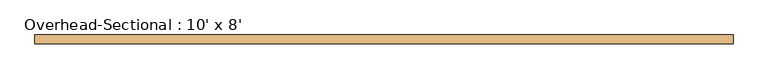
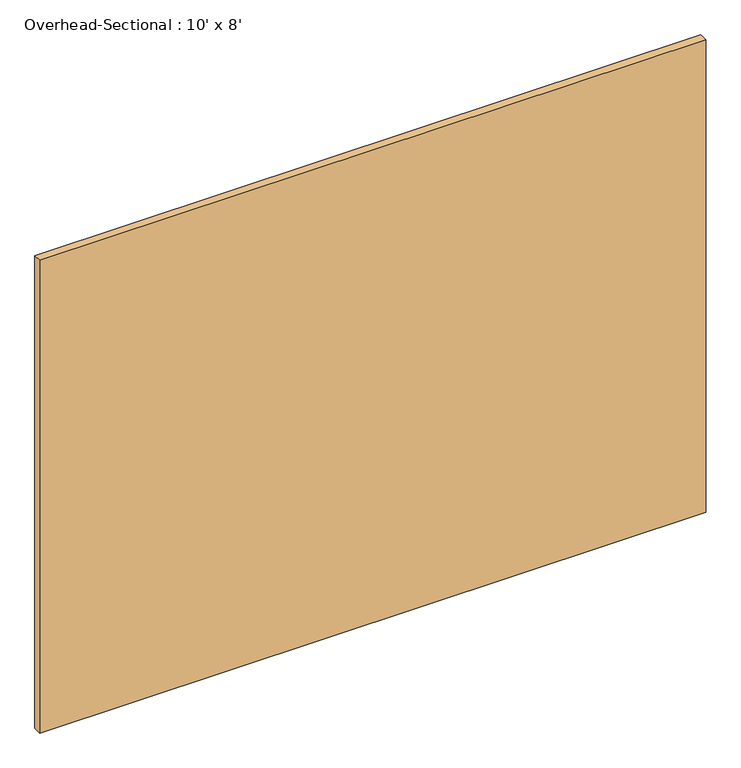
"""IFC4 building model written with IfcOpenShell, lengths in millimetres: door geometry, Overhead-Sectional : 10' x 8'."""

import ifcopenshell
import ifcopenshell.guid

model = None  # the IFC model being written
_history = None  # IfcOwnerHistory: only IFC2X3 demands one
_inside = {}  # id of a spatial element -> (the spatial element, [elements in it])
_under = {}  # id of a project, library or spatial element -> (it, [spatial elements below it])
_declared = {}  # id of a project -> (the project, [libraries it declares])
_typed = {}  # id of a type object -> (the type object, [elements of that type])
_made_of = {}  # id of a material, layer set ... -> (it, [elements and type objects made of it])


def new_model(schema):
    """Start an empty IFC model of exactly this schema.

    Asked for "IFC4X3", IfcOpenShell would pick the latest addendum, in which some entities
    have other attributes; the version numbers below select the first issue.
    IFC2X3 requires an IfcOwnerHistory on every rooted entity: one is made here for all.
    """
    global model, _history
    if schema == "IFC4X3":
        model = ifcopenshell.file(schema_version=(4, 3, 0, 0))
    else:
        model = ifcopenshell.file(schema=schema)
    _inside.clear()
    _under.clear()
    _declared.clear()
    _typed.clear()
    _made_of.clear()
    _history = None
    if model.schema == "IFC2X3":
        org = make("IfcOrganization", Name="unknown")
        user = make(
            "IfcPersonAndOrganization",
            ThePerson=make("IfcPerson", FamilyName="unknown"),
            TheOrganization=org,
        )
        app = make(
            "IfcApplication",
            ApplicationDeveloper=org,
            Version="unknown",
            ApplicationFullName="unknown",
            ApplicationIdentifier="unknown",
        )
        _history = make(
            "IfcOwnerHistory",
            OwningUser=user,
            OwningApplication=app,
            ChangeAction="ADDED",
            CreationDate=0,
        )
    return model


def make(cls, **values):
    """One entity of the class cls with the attributes given. An attribute that is None is left unset."""
    return model.create_entity(
        cls, **{name: value for name, value in values.items() if value is not None}
    )


def rooted(cls, **values):
    """An entity with a GlobalId (a new one), such as an element, a storey or a relation."""
    return make(cls, GlobalId=ifcopenshell.guid.new(), OwnerHistory=_history, **values)


def si_unit(unit_type, name, prefix=None):
    """IfcSIUnit, for example si_unit("LENGTHUNIT", "METRE", prefix="MILLI")."""
    return make("IfcSIUnit", UnitType=unit_type, Prefix=prefix, Name=name)


def assignment(units):
    """IfcUnitAssignment: the units of a project."""
    return None if units is None else make("IfcUnitAssignment", Units=units)


def point(xyz):
    """IfcCartesianPoint."""
    return None if xyz is None else make("IfcCartesianPoint", Coordinates=xyz)


def direction(xyz):
    """IfcDirection."""
    return None if xyz is None else make("IfcDirection", DirectionRatios=xyz)


def frame(location, z_axis=None, x_axis=None):
    """IfcAxis2Placement3D, a coordinate frame: its origin and axes. An axis left out is left unset."""
    return make(
        "IfcAxis2Placement3D",
        Location=point(location),
        Axis=direction(z_axis),
        RefDirection=direction(x_axis),
    )


def origin():
    """The frame at (0, 0, 0) with its axes left unset."""
    return frame((0.0, 0.0, 0.0))


def origin_with_axes():
    """The frame at (0, 0, 0) with the z axis (0, 0, 1) and the x axis (1, 0, 0) written out."""
    return frame((0.0, 0.0, 0.0), z_axis=(0.0, 0.0, 1.0), x_axis=(1.0, 0.0, 0.0))


def place(relative_to, where):
    """IfcLocalPlacement: puts the frame where relative to a parent placement (None: the world)."""
    return make(
        "IfcLocalPlacement", PlacementRelTo=relative_to, RelativePlacement=where
    )


def context(
    kind, dimensions, precision=None, world=None, true_north=None, identifier=None
):
    """IfcGeometricRepresentationContext, for example the 3D "Model" context."""
    return make(
        "IfcGeometricRepresentationContext",
        ContextIdentifier=identifier,
        ContextType=kind,
        CoordinateSpaceDimension=dimensions,
        Precision=precision,
        WorldCoordinateSystem=world,
        TrueNorth=true_north,
    )


def project(units=None, contexts=None):
    """IfcProject with its units and contexts."""
    return rooted(
        "IfcProject",
        Name="project",
        RepresentationContexts=contexts,
        UnitsInContext=assignment(units),
    )


def spatial(cls, under=None, at=None, **own):
    """A site, building, storey or space (cls), placed at a placement, below another one or the project."""
    s = rooted(cls, ObjectPlacement=at, **own)
    if under is not None:
        _under.setdefault(under.id(), (under, []))[1].append(s)
    return s


def polyline(points):
    """IfcPolyline through the points."""
    return make("IfcPolyline", Points=[point(p) for p in points])


def outline(outer, holes=None, kind="AREA"):
    """IfcArbitraryClosedProfileDef: a profile drawn as a closed curve; with holes, ...WithVoids."""
    if holes is None:
        return make("IfcArbitraryClosedProfileDef", ProfileType=kind, OuterCurve=outer)
    return make(
        "IfcArbitraryProfileDefWithVoids",
        ProfileType=kind,
        OuterCurve=outer,
        InnerCurves=holes,
    )


def extrude(swept, where, along, depth):
    """IfcExtrudedAreaSolid: the profile swept, set in the frame where, extruded along a direction by depth."""
    return make(
        "IfcExtrudedAreaSolid",
        SweptArea=swept,
        Position=where,
        ExtrudedDirection=direction(along),
        Depth=depth,
    )


def shape(context_of_items, identifier, shape_type, items):
    """IfcShapeRepresentation: the items that make up one representation, for example the "Body"."""
    return make(
        "IfcShapeRepresentation",
        ContextOfItems=context_of_items,
        RepresentationIdentifier=identifier,
        RepresentationType=shape_type,
        Items=items,
    )


def source(mapping_origin, context_of_items, identifier, shape_type, items):
    """IfcRepresentationMap: a shape defined once, which mapped items show again and again."""
    return make(
        "IfcRepresentationMap",
        MappingOrigin=mapping_origin,
        MappedRepresentation=shape(context_of_items, identifier, shape_type, items),
    )


def transform(
    local_origin,
    x_axis=None,
    y_axis=None,
    z_axis=None,
    scale=None,
    scale2=None,
    scale3=None,
    uniform=True,
):
    """IfcCartesianTransformationOperator3D, or its non-uniform kind. x_axis, y_axis, z_axis: its Axis1, 2, 3."""
    if uniform:
        return make(
            "IfcCartesianTransformationOperator3D",
            Axis1=direction(x_axis),
            Axis2=direction(y_axis),
            LocalOrigin=point(local_origin),
            Scale=scale,
            Axis3=direction(z_axis),
        )
    return make(
        "IfcCartesianTransformationOperator3DnonUniform",
        Axis1=direction(x_axis),
        Axis2=direction(y_axis),
        LocalOrigin=point(local_origin),
        Scale=scale,
        Axis3=direction(z_axis),
        Scale2=scale2,
        Scale3=scale3,
    )


def mapped(mapping_source, mapping_target):
    """IfcMappedItem: shows the shape of a source again, moved by a transform."""
    return make(
        "IfcMappedItem", MappingSource=mapping_source, MappingTarget=mapping_target
    )


def made_of(thing, what):
    """Note that an element or type object is made of a material, layer set ...; save() writes the relation."""
    if what is not None:
        _made_of.setdefault(what.id(), (what, []))[1].append(thing)
    return thing


def element(
    cls,
    number,
    at=None,
    inside=None,
    cuts=None,
    type_object=None,
    material=None,
    context=None,
    identifier="Body",
    shape_type=None,
    held_by="IfcProductDefinitionShape",
    body=None,
    shapes=None,
    **own,
):
    """One element of the class cls, such as IfcWall. Its Tag is "e" and its number.

    at: its placement. inside: the storey or other place that contains it. cuts: it is an
    opening in that element (IfcRelVoidsElement). A single representation is given by context,
    identifier, shape_type and body (its items); several are given by shapes. held_by: the class
    of the entity that holds the representations. save() writes the other relations.
    """
    e = rooted(cls, Tag="e%d" % number, ObjectPlacement=at, **own)
    if body is not None:
        shapes = [shape(context, identifier, shape_type, body)]
    if shapes is not None:
        e.Representation = make(held_by, Representations=shapes)
    if inside is not None:
        _inside.setdefault(inside.id(), (inside, []))[1].append(e)
    if cuts is not None:
        rooted(
            "IfcRelVoidsElement", RelatingBuildingElement=cuts, RelatedOpeningElement=e
        )
    if type_object is not None:
        _typed.setdefault(type_object.id(), (type_object, []))[1].append(e)
    return made_of(e, material)


def aggregate(whole, parts):
    """IfcRelAggregates: a whole, such as a stair, and the parts it consists of."""
    return rooted("IfcRelAggregates", RelatingObject=whole, RelatedObjects=parts)


def save(model, path):
    """Write the relations noted so far, then the file.

    IfcRelAggregates (storeys below a building ...), IfcRelContainedInSpatialStructure (elements
    in a storey), IfcRelDefinesByType, IfcRelAssociatesMaterial and IfcRelDeclares: one each for
    every whole, place, type object, material and project.
    """
    for whole, parts in _under.values():
        aggregate(whole, parts)
    for where, things in _inside.values():
        rooted(
            "IfcRelContainedInSpatialStructure",
            RelatedElements=things,
            RelatingStructure=where,
        )
    for kind, things in _typed.values():
        rooted("IfcRelDefinesByType", RelatedObjects=things, RelatingType=kind)
    for what, things in _made_of.values():
        rooted("IfcRelAssociatesMaterial", RelatedObjects=things, RelatingMaterial=what)
    for by, libraries in _declared.values():
        rooted("IfcRelDeclares", RelatingContext=by, RelatedDefinitions=libraries)
    model.write(path)


def overhead_sectional_10_x_8_1248f1e6(model_context):
    return source(origin(), model_context, "Body", "SweptSolid", [
        extrude(outline(polyline([(1524.0, 176.2125), (-1524.0, 176.2125), (-1524.0, 214.3125), (1524.0, 214.3125), (1524.0, 176.2125)])), origin_with_axes(), (0.0, 0.0, 1.0), 2286.0),
    ])


if __name__ == "__main__":
    model = new_model("IFC4")
    model_context = context("Model", 3, world=origin())
    ifc_project = project(units=[si_unit("LENGTHUNIT", "METRE", prefix="MILLI")], contexts=[model_context])
    site = spatial("IfcSite", under=ifc_project)
    building = spatial("IfcBuilding", under=site)
    placement = place(None, origin())
    overhead_sectional_10_x_8_shape = overhead_sectional_10_x_8_1248f1e6(model_context)
    element("IfcDoor", 1, ObjectType="Overhead-Sectional : 10' x 8'", at=placement, inside=building, context=model_context, shape_type="MappedRepresentation", body=[
        mapped(overhead_sectional_10_x_8_shape, transform((0.0, 0.0, 0.0), x_axis=(1.0, 0.0, 0.0), y_axis=(0.0, 1.0, 0.0), z_axis=(0.0, 0.0, 1.0))),
    ])
    save(model, "model.ifc")
